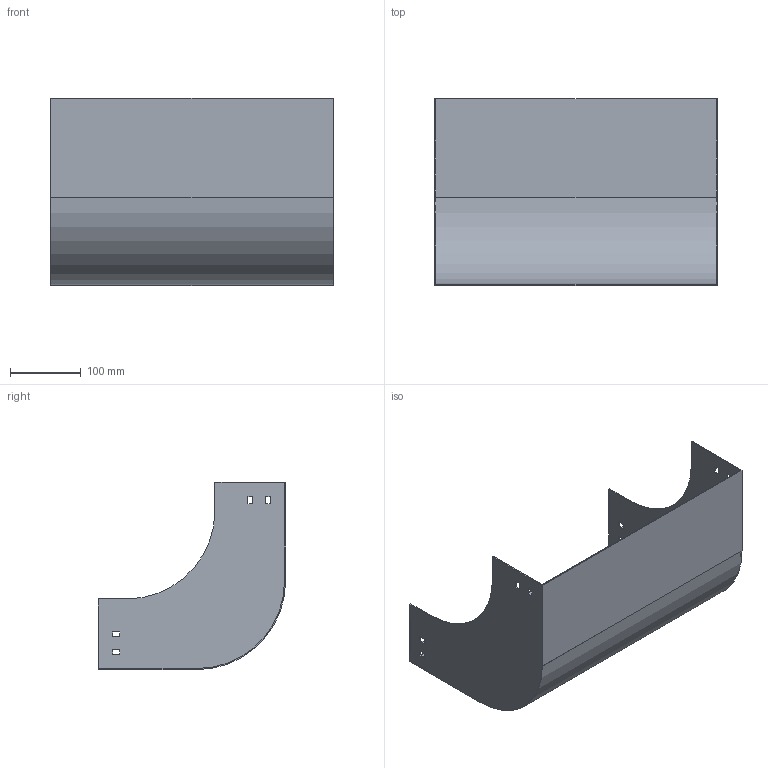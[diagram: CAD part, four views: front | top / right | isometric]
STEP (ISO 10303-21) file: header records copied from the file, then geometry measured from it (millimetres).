
FILE_DESCRIPTION (( 'STEP AP214' ), '1' );
FILE_NAME ('S9_401.step', '2025-07-16T09:28:22', ( '' ), ( '' ), 'SwSTEP 2.0', 'SolidWorks 2023', '' );
FILE_SCHEMA (( 'AUTOMOTIVE_DESIGN' ));
Length unit declared in the file: millimetre
Products named in the file (1): S9_401
Bounding box: 400 x 265 x 265 mm (x, y, z)
Volume: 411124.6 mm3; surface area: 551197.7 mm2
Topology: 1 solids, 1 shells, 50 faces, 144 edges, 96 vertices
Faces by surface type: plane 46, cylinder 4
Entity records: 1671 total; most frequent: CARTESIAN_POINT 291, ORIENTED_EDGE 288, DIRECTION 254, EDGE_CURVE 144, VECTOR 136, LINE 136, VERTEX_POINT 96, EDGE_LOOP 66
